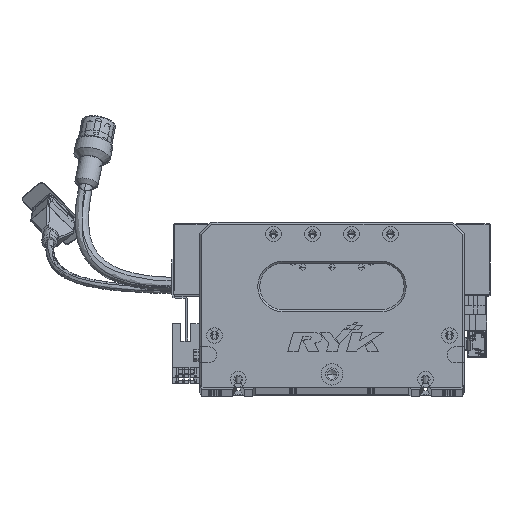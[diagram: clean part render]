
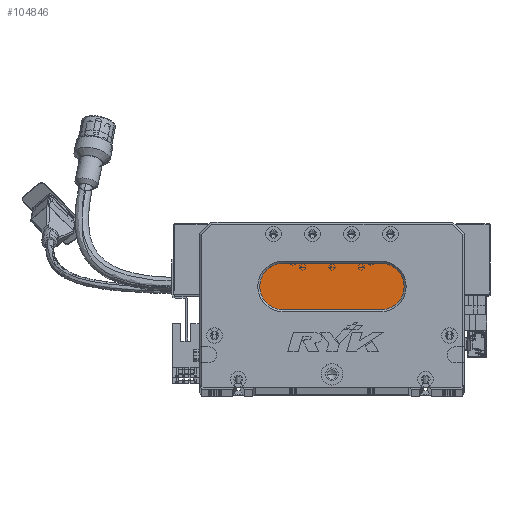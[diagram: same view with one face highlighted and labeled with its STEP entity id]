
A CAD part, top view. The second image highlights one B-rep face of the part: STEP entity #104846.
In plain terms, the highlighted planar face has unit normal (0, 0, 1) as drawn and (0, 0, -1) by its records, which use the part's own axes.
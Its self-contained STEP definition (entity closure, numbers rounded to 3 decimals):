
#2581 = CARTESIAN_POINT ( 'NONE',  ( 31., 52., 13. ) ) ;
#2717 = CARTESIAN_POINT ( 'NONE',  ( 43., 40., 13. ) ) ;
#2794 = VECTOR ( 'NONE', #6207, 1000. ) ;
#5681 = LINE ( 'NONE', #61126, #2794 ) ;
#6207 = DIRECTION ( 'NONE',  ( -1., 0., 0. ) ) ;
#6218 = EDGE_CURVE ( 'NONE', #37668, #22165, #7243, .T. ) ;
#7243 = CIRCLE ( 'NONE', #53122, 12. ) ;
#8387 = VERTEX_POINT ( 'NONE', #2717 ) ;
#11056 = CARTESIAN_POINT ( 'NONE',  ( 93., 64., 13. ) ) ;
#11489 = VERTEX_POINT ( 'NONE', #51178 ) ;
#12640 = DIRECTION ( 'NONE',  ( 1., 0., 0. ) ) ;
#12824 = EDGE_CURVE ( 'NONE', #39690, #11489, #14516, .T. ) ;
#13756 = CARTESIAN_POINT ( 'NONE',  ( 43., 52., 13. ) ) ;
#14516 = CIRCLE ( 'NONE', #93124, 12. ) ;
#15326 = DIRECTION ( 'NONE',  ( -1., 0., 0. ) ) ;
#21154 = ORIENTED_EDGE ( 'NONE', *, *, #6218, .T. ) ;
#22165 = VERTEX_POINT ( 'NONE', #42925 ) ;
#23300 = PLANE ( 'NONE',  #50109 ) ;
#29997 = CARTESIAN_POINT ( 'NONE',  ( 93., 52., 13. ) ) ;
#30568 = VECTOR ( 'NONE', #12640, 1000. ) ;
#31310 = CARTESIAN_POINT ( 'NONE',  ( 93., 64., 13. ) ) ;
#34621 = DIRECTION ( 'NONE',  ( -1., 0., 0. ) ) ;
#35124 = EDGE_CURVE ( 'NONE', #8387, #37668, #35902, .T. ) ;
#35902 = CIRCLE ( 'NONE', #76969, 12. ) ;
#36572 = ORIENTED_EDGE ( 'NONE', *, *, #12824, .T. ) ;
#37668 = VERTEX_POINT ( 'NONE', #2581 ) ;
#39690 = VERTEX_POINT ( 'NONE', #31310 ) ;
#42925 = CARTESIAN_POINT ( 'NONE',  ( 43., 64., 13. ) ) ;
#50109 = AXIS2_PLACEMENT_3D ( 'NONE', #78933, #60258, #51127 ) ;
#51127 = DIRECTION ( 'NONE',  ( -1., 0., 0. ) ) ;
#51178 = CARTESIAN_POINT ( 'NONE',  ( 93., 40., 13. ) ) ;
#53122 = AXIS2_PLACEMENT_3D ( 'NONE', #13756, #113693, #15326 ) ;
#54937 = EDGE_LOOP ( 'NONE', ( #36572, #90554, #106338, #21154, #93781 ) ) ;
#60258 = DIRECTION ( 'NONE',  ( 0., 0., -1. ) ) ;
#61126 = CARTESIAN_POINT ( 'NONE',  ( 93., 40., 13. ) ) ;
#70780 = DIRECTION ( 'NONE',  ( 0., 0., -1. ) ) ;
#76969 = AXIS2_PLACEMENT_3D ( 'NONE', #116191, #70780, #34621 ) ;
#78933 = CARTESIAN_POINT ( 'NONE',  ( 93., 52., 13. ) ) ;
#82883 = DIRECTION ( 'NONE',  ( 0., 0., -1. ) ) ;
#90554 = ORIENTED_EDGE ( 'NONE', *, *, #97221, .T. ) ;
#92805 = DIRECTION ( 'NONE',  ( -1., 0., 0. ) ) ;
#93004 = EDGE_CURVE ( 'NONE', #22165, #39690, #103240, .T. ) ;
#93124 = AXIS2_PLACEMENT_3D ( 'NONE', #29997, #82883, #92805 ) ;
#93781 = ORIENTED_EDGE ( 'NONE', *, *, #93004, .T. ) ;
#97221 = EDGE_CURVE ( 'NONE', #11489, #8387, #5681, .T. ) ;
#101939 = FACE_OUTER_BOUND ( 'NONE', #54937, .T. ) ;
#103240 = LINE ( 'NONE', #11056, #30568 ) ;
#104846 = ADVANCED_FACE ( 'NONE', ( #101939 ), #23300, .T. ) ;
#106338 = ORIENTED_EDGE ( 'NONE', *, *, #35124, .T. ) ;
#113693 = DIRECTION ( 'NONE',  ( 0., 0., -1. ) ) ;
#116191 = CARTESIAN_POINT ( 'NONE',  ( 43., 52., 13. ) ) ;
